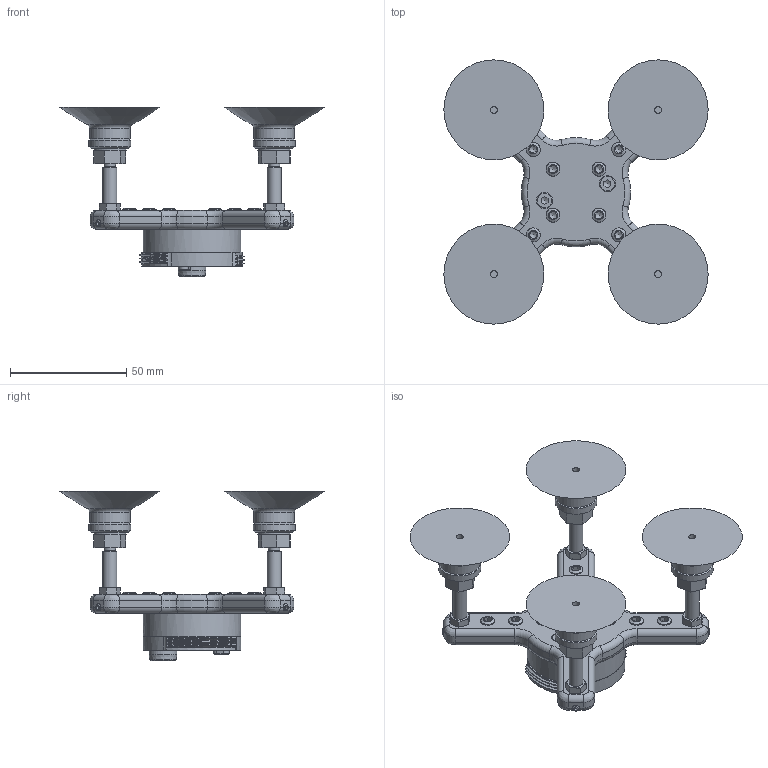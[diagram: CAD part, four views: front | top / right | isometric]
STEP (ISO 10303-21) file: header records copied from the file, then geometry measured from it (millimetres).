
FILE_DESCRIPTION(/* description */ (''),/* implementation_level */ '2;1');
FILE_NAME(/* name */ 'C:\Users\Uffe Safeldt\Dropbox\SoftBox_Documents\Inventor\QuickTool\CAD\VG-4X40_CAD.stp',/* time_stamp */ '2018-09-02T12:34:07+02:00',/* author */ ('Uffe Safeldt'),/* organization */ (''),/* preprocessor_version */ 'ST-DEVELOPER v15.2',/* originating_system */ 'Autodesk Inventor 2014',/* authorisation */ '');
FILE_SCHEMA (('AUTOMOTIVE_DESIGN { 1 0 10303 214 3 1 1 }'));
Length unit declared in the file: millimetre
Products named in the file (7): VG-4X; ZP40U-A6_T; ZPT4-A6_40_50; ZPT4-A6_40_50_NUT; ZPT40UN-A6_N; DIN 913 - M6 x 6; VG-4X40_CAD
Assembly tree (20 placements, depth 3):
  VG-4X40_CAD
    VG-4X
    ZPT40UN-A6_N  x4
      ZP40U-A6_T
      ZPT4-A6_40_50
      ZPT4-A6_40_50_NUT
    DIN 913 - M6 x 6  x12
Bounding box: 113.71 x 113.71 x 73.1 mm (x, y, z)
Volume: 92273.5 mm3; surface area: 39421.3 mm2
Topology: 25 solids, 27 shells, 698 faces, 1558 edges, 960 vertices
Faces by surface type: plane 268, cone 196, cylinder 154, torus 40, bspline 40
Full cylindrical faces by diameter (mm): 2.459 x20, 3 x12, 4 x2, 4.2 x2, 4.9 x4, 4.917 x20, 5 x1, 6 x16, 7 x2, 8.2 x1, 12 x1, 14 x4, 17.5 x4, 18 x4, 42 x1
Entity records: 13038 total; most frequent: CARTESIAN_POINT 4794, DIRECTION 1600, ORIENTED_EDGE 1476, EDGE_CURVE 738, AXIS2_PLACEMENT_3D 704, EDGE_LOOP 557, VERTEX_POINT 515, ADVANCED_FACE 377
